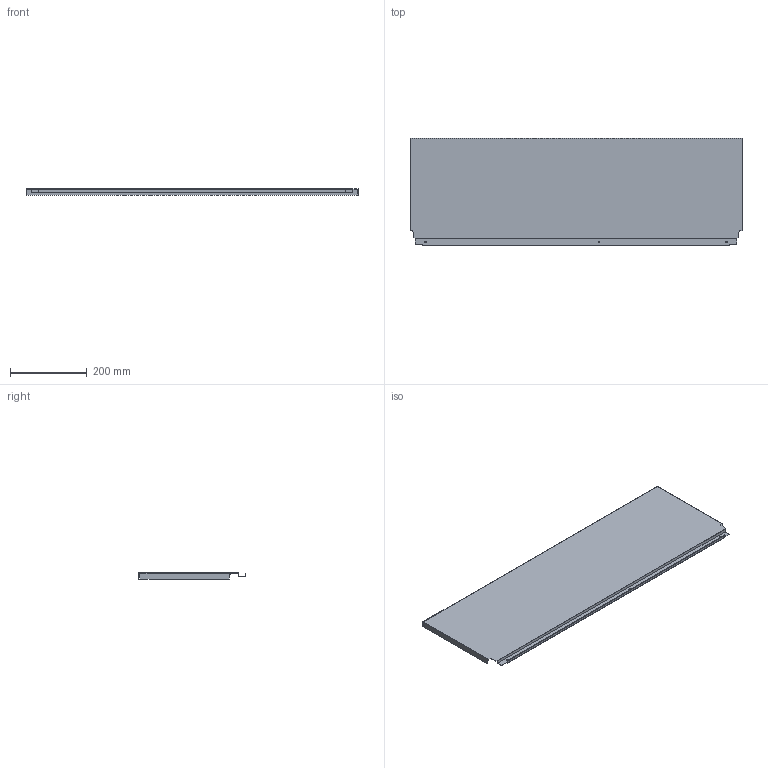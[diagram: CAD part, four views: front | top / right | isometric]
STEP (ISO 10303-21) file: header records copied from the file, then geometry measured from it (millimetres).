
FILE_DESCRIPTION (( 'STEP AP214' ), '1' );
FILE_NAME ('_DWD_XP Stahlrückwand_H278_KAB950_S18.step', '2010-07-08T13:04:01', ( 'grass' ), ( '' ), 'SwSTEP 2.0', 'SolidWorks 2010', '' );
FILE_SCHEMA (( 'AUTOMOTIVE_DESIGN' ));
Length unit declared in the file: millimetre
Products named in the file (1): _DWD_XP Stahlrückwand_H278_KAB950_S18
Bounding box: 863 x 278.57 x 16 mm (x, y, z)
Volume: 239295.8 mm3; surface area: 545920.9 mm2
Topology: 1 solids, 1 shells, 46 faces, 132 edges, 88 vertices
Faces by surface type: plane 40, cylinder 6
Entity records: 1534 total; most frequent: CARTESIAN_POINT 267, ORIENTED_EDGE 264, DIRECTION 238, EDGE_CURVE 132, LINE 120, VECTOR 120, VERTEX_POINT 88, AXIS2_PLACEMENT_3D 59
